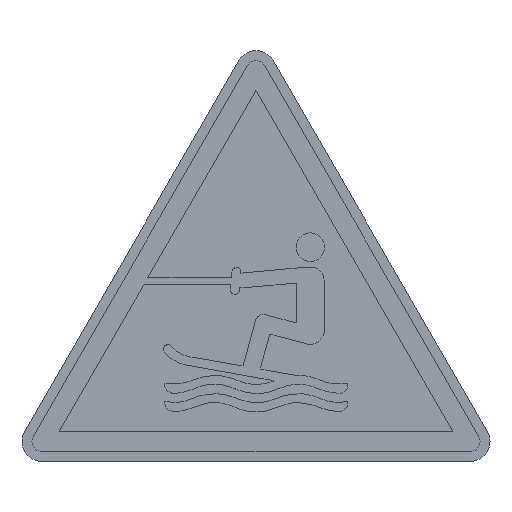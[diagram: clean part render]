
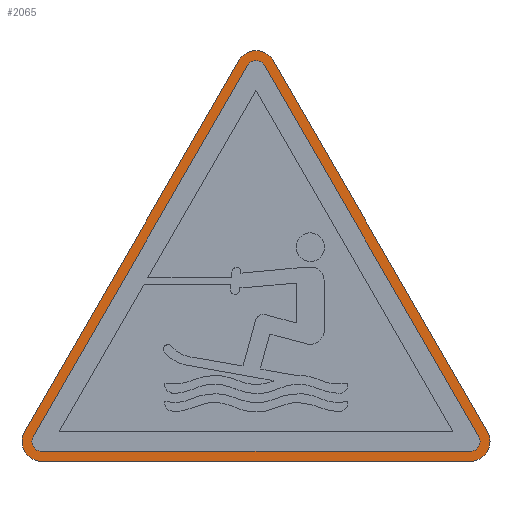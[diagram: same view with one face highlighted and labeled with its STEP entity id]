
A CAD part, top view. The second image highlights one B-rep face of the part: STEP entity #2065.
In plain terms, the highlighted planar face has unit normal (0, 0, 1).
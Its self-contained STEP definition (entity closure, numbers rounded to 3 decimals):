
#6 = VERTEX_POINT ( 'NONE', #1301 ) ;
#54 = CARTESIAN_POINT ( 'NONE',  ( -21.536, 1., 0.2 ) ) ;
#66 = PLANE ( 'NONE',  #2876 ) ;
#103 = VERTEX_POINT ( 'NONE', #3844 ) ;
#175 = EDGE_LOOP ( 'NONE', ( #1106, #7503, #1126, #242, #5291, #8235 ) ) ;
#242 = ORIENTED_EDGE ( 'NONE', *, *, #3007, .F. ) ;
#299 = CIRCLE ( 'NONE', #4162, 1. ) ;
#316 = EDGE_CURVE ( 'NONE', #6092, #4732, #5879, .T. ) ;
#420 = VERTEX_POINT ( 'NONE', #2107 ) ;
#446 = EDGE_LOOP ( 'NONE', ( #6341, #4272, #7590, #5704, #3789, #8167 ) ) ;
#488 = DIRECTION ( 'NONE',  ( -0.5, 0.866, 0. ) ) ;
#497 = CARTESIAN_POINT ( 'NONE',  ( 21.536, 1., 0.2 ) ) ;
#561 = CARTESIAN_POINT ( 'NONE',  ( -21.536, 2., 0.2 ) ) ;
#563 = EDGE_CURVE ( 'NONE', #103, #1716, #299, .T. ) ;
#576 = EDGE_CURVE ( 'NONE', #4732, #4190, #5389, .T. ) ;
#627 = EDGE_CURVE ( 'NONE', #5334, #103, #4256, .T. ) ;
#1046 = VECTOR ( 'NONE', #488, 1000. ) ;
#1062 = EDGE_CURVE ( 'NONE', #1716, #6488, #7578, .T. ) ;
#1106 = ORIENTED_EDGE ( 'NONE', *, *, #627, .F. ) ;
#1126 = ORIENTED_EDGE ( 'NONE', *, *, #3483, .F. ) ;
#1221 = VERTEX_POINT ( 'NONE', #2357 ) ;
#1301 = CARTESIAN_POINT ( 'NONE',  ( -23.268, 3., 0.2 ) ) ;
#1396 = VECTOR ( 'NONE', #5666, 1000. ) ;
#1569 = DIRECTION ( 'NONE',  ( 0., 0., 1. ) ) ;
#1607 = CARTESIAN_POINT ( 'NONE',  ( -21.536, 2., 0.2 ) ) ;
#1716 = VERTEX_POINT ( 'NONE', #5833 ) ;
#1764 = DIRECTION ( 'NONE',  ( -0.5, -0.866, 0. ) ) ;
#1774 = CARTESIAN_POINT ( 'NONE',  ( 1.732, 40.301, 0.2 ) ) ;
#1972 = DIRECTION ( 'NONE',  ( 0., 0., 1. ) ) ;
#2065 = ADVANCED_FACE ( 'NONE', ( #3304, #5174 ), #66, .T. ) ;
#2101 = EDGE_CURVE ( 'NONE', #1221, #6, #2642, .T. ) ;
#2107 = CARTESIAN_POINT ( 'NONE',  ( 0.866, 39.801, 0.2 ) ) ;
#2357 = CARTESIAN_POINT ( 'NONE',  ( -1.732, 40.301, 0.2 ) ) ;
#2372 = AXIS2_PLACEMENT_3D ( 'NONE', #4782, #4158, #7291 ) ;
#2526 = DIRECTION ( 'NONE',  ( 1., 0., 0. ) ) ;
#2642 = LINE ( 'NONE', #7184, #4866 ) ;
#2802 = EDGE_CURVE ( 'NONE', #6, #5026, #7425, .T. ) ;
#2876 = AXIS2_PLACEMENT_3D ( 'NONE', #4621, #1972, #7011 ) ;
#3007 = EDGE_CURVE ( 'NONE', #6488, #7433, #3965, .T. ) ;
#3090 = DIRECTION ( 'NONE',  ( -1., 0., 0. ) ) ;
#3094 = DIRECTION ( 'NONE',  ( 0., 0., 1. ) ) ;
#3168 = EDGE_CURVE ( 'NONE', #4190, #1221, #3971, .T. ) ;
#3175 = AXIS2_PLACEMENT_3D ( 'NONE', #4996, #6198, #8117 ) ;
#3181 = CARTESIAN_POINT ( 'NONE',  ( -21.536, 0., 0.2 ) ) ;
#3222 = DIRECTION ( 'NONE',  ( 1., 0., 0. ) ) ;
#3304 = FACE_OUTER_BOUND ( 'NONE', #446, .T. ) ;
#3475 = DIRECTION ( 'NONE',  ( 1., 0., 0. ) ) ;
#3483 = EDGE_CURVE ( 'NONE', #7433, #420, #8183, .T. ) ;
#3546 = DIRECTION ( 'NONE',  ( 1., 0., 0. ) ) ;
#3557 = AXIS2_PLACEMENT_3D ( 'NONE', #561, #8135, #3090 ) ;
#3700 = CIRCLE ( 'NONE', #2372, 1. ) ;
#3763 = VECTOR ( 'NONE', #1764, 1000. ) ;
#3789 = ORIENTED_EDGE ( 'NONE', *, *, #316, .T. ) ;
#3844 = CARTESIAN_POINT ( 'NONE',  ( -22.402, 2.5, 0.2 ) ) ;
#3965 = CIRCLE ( 'NONE', #4622, 1. ) ;
#3971 = CIRCLE ( 'NONE', #3175, 2. ) ;
#4016 = AXIS2_PLACEMENT_3D ( 'NONE', #8222, #3094, #2526 ) ;
#4138 = DIRECTION ( 'NONE',  ( -0.5, 0.866, 0. ) ) ;
#4158 = DIRECTION ( 'NONE',  ( 0., 0., 1. ) ) ;
#4162 = AXIS2_PLACEMENT_3D ( 'NONE', #1607, #1569, #3475 ) ;
#4190 = VERTEX_POINT ( 'NONE', #1774 ) ;
#4256 = LINE ( 'NONE', #5555, #3763 ) ;
#4272 = ORIENTED_EDGE ( 'NONE', *, *, #2101, .T. ) ;
#4621 = CARTESIAN_POINT ( 'NONE',  ( 0., 39.301, 0.2 ) ) ;
#4622 = AXIS2_PLACEMENT_3D ( 'NONE', #6754, #5502, #3546 ) ;
#4732 = VERTEX_POINT ( 'NONE', #5023 ) ;
#4782 = CARTESIAN_POINT ( 'NONE',  ( 0., 39.301, 0.2 ) ) ;
#4866 = VECTOR ( 'NONE', #5212, 1000. ) ;
#4996 = CARTESIAN_POINT ( 'NONE',  ( 0., 39.301, 0.2 ) ) ;
#5023 = CARTESIAN_POINT ( 'NONE',  ( 23.268, 3., 0.2 ) ) ;
#5026 = VERTEX_POINT ( 'NONE', #6966 ) ;
#5047 = EDGE_CURVE ( 'NONE', #5026, #6092, #6849, .T. ) ;
#5174 = FACE_BOUND ( 'NONE', #175, .T. ) ;
#5212 = DIRECTION ( 'NONE',  ( -0.5, -0.866, 0. ) ) ;
#5291 = ORIENTED_EDGE ( 'NONE', *, *, #1062, .F. ) ;
#5334 = VERTEX_POINT ( 'NONE', #6289 ) ;
#5389 = LINE ( 'NONE', #7311, #6157 ) ;
#5502 = DIRECTION ( 'NONE',  ( 0., 0., 1. ) ) ;
#5555 = CARTESIAN_POINT ( 'NONE',  ( -0.866, 39.801, 0.2 ) ) ;
#5666 = DIRECTION ( 'NONE',  ( 1., 0., 0. ) ) ;
#5692 = CARTESIAN_POINT ( 'NONE',  ( 21.536, 0., 0.2 ) ) ;
#5704 = ORIENTED_EDGE ( 'NONE', *, *, #5047, .T. ) ;
#5833 = CARTESIAN_POINT ( 'NONE',  ( -21.536, 1., 0.2 ) ) ;
#5879 = CIRCLE ( 'NONE', #4016, 2. ) ;
#6092 = VERTEX_POINT ( 'NONE', #5692 ) ;
#6157 = VECTOR ( 'NONE', #4138, 1000. ) ;
#6198 = DIRECTION ( 'NONE',  ( 0., 0., 1. ) ) ;
#6289 = CARTESIAN_POINT ( 'NONE',  ( -0.866, 39.801, 0.2 ) ) ;
#6341 = ORIENTED_EDGE ( 'NONE', *, *, #3168, .T. ) ;
#6488 = VERTEX_POINT ( 'NONE', #497 ) ;
#6726 = CARTESIAN_POINT ( 'NONE',  ( 22.402, 2.5, 0.2 ) ) ;
#6754 = CARTESIAN_POINT ( 'NONE',  ( 21.536, 2., 0.2 ) ) ;
#6849 = LINE ( 'NONE', #3181, #7594 ) ;
#6966 = CARTESIAN_POINT ( 'NONE',  ( -21.536, 0., 0.2 ) ) ;
#7011 = DIRECTION ( 'NONE',  ( 1., 0., 0. ) ) ;
#7184 = CARTESIAN_POINT ( 'NONE',  ( -1.732, 40.301, 0.2 ) ) ;
#7291 = DIRECTION ( 'NONE',  ( 1., 0., 0. ) ) ;
#7311 = CARTESIAN_POINT ( 'NONE',  ( 23.268, 3., 0.2 ) ) ;
#7425 = CIRCLE ( 'NONE', #3557, 2. ) ;
#7433 = VERTEX_POINT ( 'NONE', #6726 ) ;
#7503 = ORIENTED_EDGE ( 'NONE', *, *, #8009, .F. ) ;
#7568 = CARTESIAN_POINT ( 'NONE',  ( 22.402, 2.5, 0.2 ) ) ;
#7578 = LINE ( 'NONE', #54, #1396 ) ;
#7590 = ORIENTED_EDGE ( 'NONE', *, *, #2802, .T. ) ;
#7594 = VECTOR ( 'NONE', #3222, 1000. ) ;
#8009 = EDGE_CURVE ( 'NONE', #420, #5334, #3700, .T. ) ;
#8117 = DIRECTION ( 'NONE',  ( 1., 0., 0. ) ) ;
#8135 = DIRECTION ( 'NONE',  ( 0., 0., 1. ) ) ;
#8167 = ORIENTED_EDGE ( 'NONE', *, *, #576, .T. ) ;
#8183 = LINE ( 'NONE', #7568, #1046 ) ;
#8222 = CARTESIAN_POINT ( 'NONE',  ( 21.536, 2., 0.2 ) ) ;
#8235 = ORIENTED_EDGE ( 'NONE', *, *, #563, .F. ) ;
